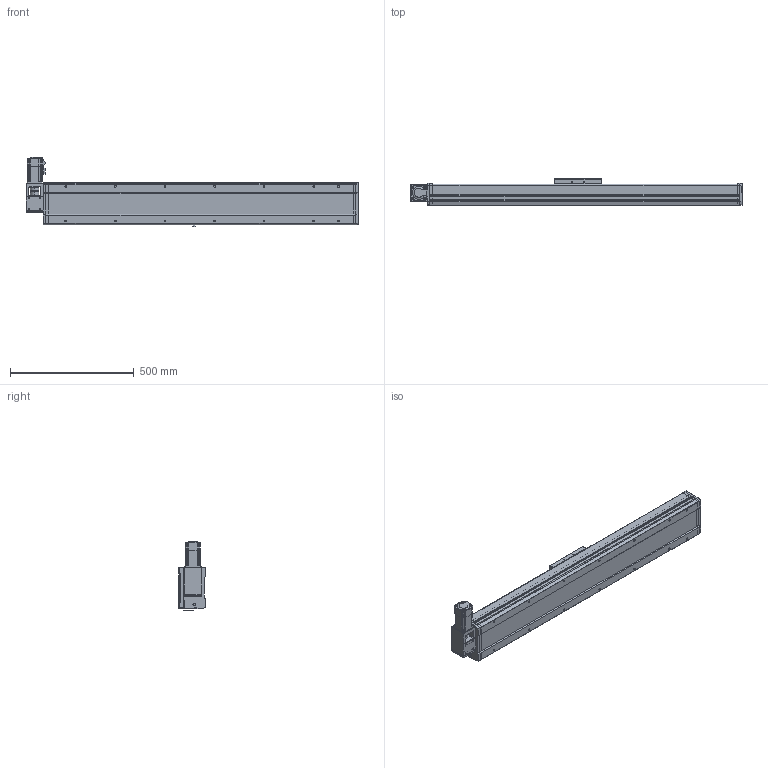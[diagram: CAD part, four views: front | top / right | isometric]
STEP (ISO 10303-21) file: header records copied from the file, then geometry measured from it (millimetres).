
FILE_DESCRIPTION((''),'2;1');
FILE_NAME('170-TZJ3FL-S950_ASM','2015-12-04T',('lenovo'),(''),'PRO/ENGINEER BY PARAMETRIC TECHNOLOGY CORPORATION, 2010280','PRO/ENGINEER BY PARAMETRIC TECHNOLOGY CORPORATION, 2010280','');
FILE_SCHEMA(('CONFIG_CONTROL_DESIGN'));
Length unit declared in the file: millimetre
Products named in the file (5): 170-TJFL-DZ; 170-HK; 170-HDB-01; 170-TZJ3FL-DJZ; 170-TZJ3FL-S950_ASM
Assembly tree (4 placements, depth 2):
  170-TZJ3FL-S950_ASM
    170-TJFL-DZ
    170-HK
    170-HDB-01
    170-TZJ3FL-DJZ
Bounding box: 1339 x 107 x 278.5 mm (x, y, z)
Volume: 10062923.3 mm3; surface area: 1537424.5 mm2
Topology: 6 solids, 30 shells, 1486 faces, 4033 edges, 2689 vertices
Faces by surface type: plane 794, cylinder 551, cone 113, torus 28
Entity records: 47579 total; most frequent: CARTESIAN_POINT 8491, DIRECTION 8356, ORIENTED_EDGE 8066, EDGE_CURVE 4033, AXIS2_PLACEMENT_3D 2870, VERTEX_POINT 2689, VECTOR 2616, LINE 2616
